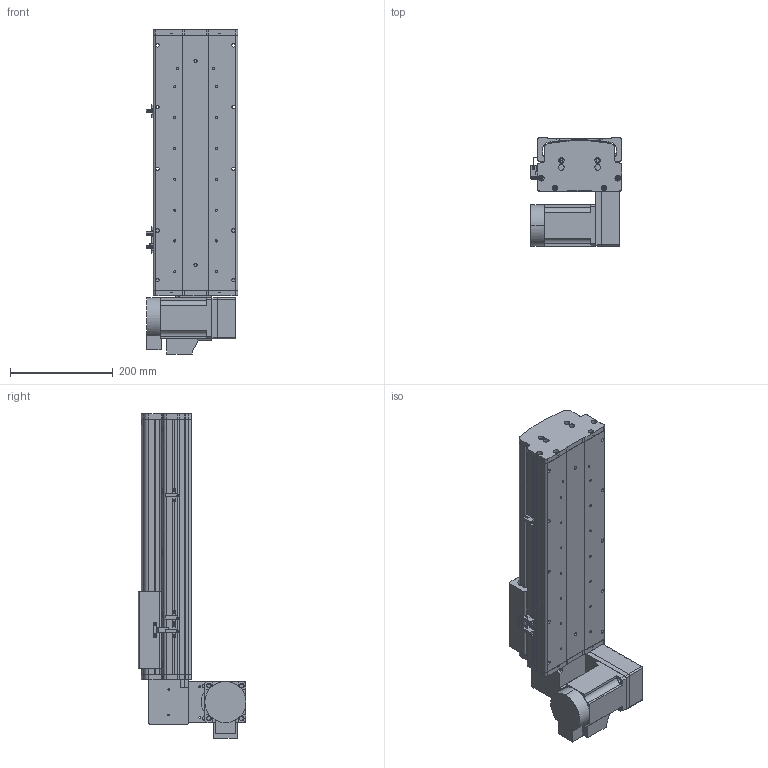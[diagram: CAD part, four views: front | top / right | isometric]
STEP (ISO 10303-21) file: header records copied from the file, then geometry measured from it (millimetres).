
FILE_DESCRIPTION (( 'STEP AP214' ), '1' );
FILE_NAME ('KSD165B-S250-MRD-CM .STEP', '2017-10-16T09:15:14', ( '微软用户' ), ( '微软中国' ), 'SwSTEP 2.0', 'SolidWorks 2014', '' );
FILE_SCHEMA (( 'AUTOMOTIVE_DESIGN' ));
Length unit declared in the file: millimetre
Products named in the file (17): KSD165B-S250-MRD-CM ; 130宽模组马达安装板连板上下折丝杆同步带; 130宽模组保护罩上下左右折-同步带; HTPA26S5M250-A-H8 750W萇儂蚚; HTPA26S5M250-A-H8 400W萇儂蚚 ; KSD165模组-同步带防尘盖1-250行程-最新版; KSD165模组同步带底板-250行程-最新; 拸秶雄ん750W侜督萇儂; 165宽马达安装板同步带右; U倰嫖萇假蚾璃; U倰嫖萇EEㄜSX672; 覜茼え68遵圉猾敕; KSD165模组-同步带-防撞垫2; KSD165模组同步带-防撞垫1; KSD165耀郪-ヶ傷啣1-肮祭湍; KSD165模组-后端板1-同步带; KSD165模组-同步带滑动座-最新版
Assembly tree (20 placements, depth 2):
  KSD165B-S250-MRD-CM 
    KSD165模组-同步带滑动座-最新版
    KSD165模组-后端板1-同步带
    KSD165耀郪-ヶ傷啣1-肮祭湍
    KSD165模组同步带-防撞垫1
    KSD165模组-同步带-防撞垫2
    覜茼え68遵圉猾敕
    U倰嫖萇EEㄜSX672  x3
    U倰嫖萇假蚾璃  x3
    165宽马达安装板同步带右
    拸秶雄ん750W侜督萇儂
    KSD165模组同步带底板-250行程-最新
    KSD165模组-同步带防尘盖1-250行程-最新版
    HTPA26S5M250-A-H8 400W萇儂蚚 
    HTPA26S5M250-A-H8 750W萇儂蚚
    130宽模组保护罩上下左右折-同步带
    130宽模组马达安装板连板上下折丝杆同步带
Bounding box: 178.7 x 210 x 630.5 mm (x, y, z)
Volume: 4530701.6 mm3; surface area: 1044330.2 mm2
Topology: 21 solids, 21 shells, 1863 faces, 5244 edges, 3420 vertices
Faces by surface type: cylinder 1175, plane 576, cone 112
Entity records: 59540 total; most frequent: CARTESIAN_POINT 12220, DIRECTION 9864, ORIENTED_EDGE 9148, EDGE_CURVE 4574, AXIS2_PLACEMENT_3D 3854, VERTEX_POINT 3012, CIRCLE 2188, LINE 2156
